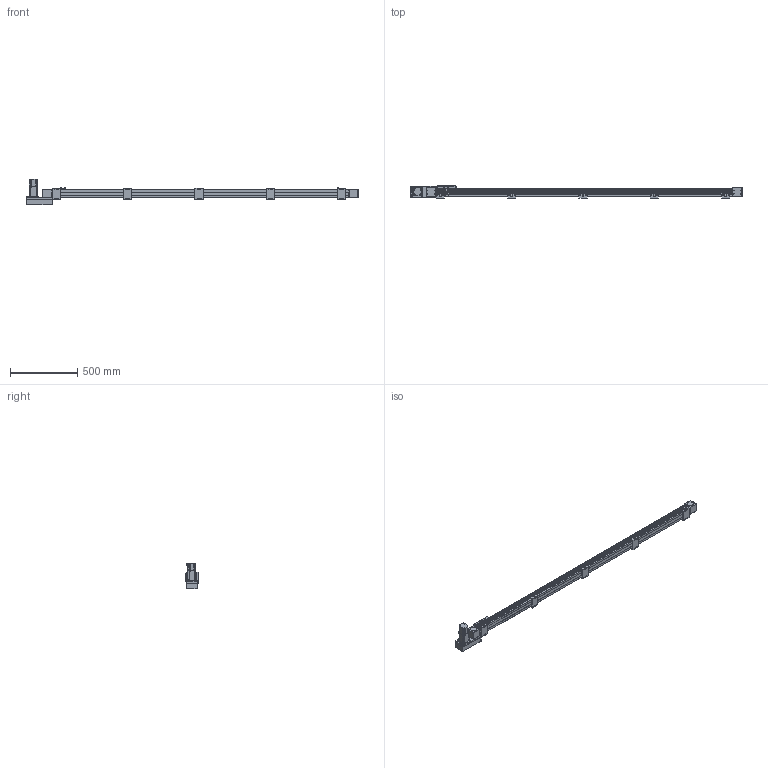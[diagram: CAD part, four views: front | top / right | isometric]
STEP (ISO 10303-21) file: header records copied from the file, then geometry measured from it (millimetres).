
FILE_DESCRIPTION(/* description */ ('STEP AP214'),/* implementation_level */ '2;1');
FILE_NAME(/* name */ 'SK60-P13-S2050-L-T40-C1-N(0)',/* time_stamp */ '2023-04-06T04:11:41+02:00',/* author */ ('License CC BY-ND 4.0'),/* organization */ ('CADENAS'),/* preprocessor_version */ 'ST-DEVELOPER v19.3',/* originating_system */ 'PARTsolutions',/* authorisation */ ' ');
FILE_SCHEMA (('AUTOMOTIVE_DESIGN {1 0 10303 214 3 1 1}'));
Length unit declared in the file: millimetre
Products named in the file (10): SK60-P13-S2050-L-T40-C1-N(0); PSC140-sensor; SK60-S450_seat; SK60-S450-BL-C1_slider; SK60_body3; SK60_body6; SK60-BL_body2; T40-p1; SK60-L_fb; SK60-S2050-L-C1_body
Assembly tree (19 placements, depth 2):
  SK60-P13-S2050-L-T40-C1-N(0)
    PSC140-sensor  x3
    SK60-S450_seat  x5
    SK60-S450-BL-C1_slider
    SK60_body3  x3
    SK60_body6  x2
    SK60-BL_body2  x2
    T40-p1
    SK60-L_fb
    SK60-S2050-L-C1_body
Bounding box: 2470.5 x 90 x 189.7 mm (x, y, z)
Volume: 9229431 mm3; surface area: 1108099.1 mm2
Topology: 19 solids, 19 shells, 942 faces, 2342 edges, 1541 vertices
Faces by surface type: plane 596, cylinder 310, cone 34, torus 2
Full cylindrical faces by diameter (mm): 2.8 x3, 3.3 x4, 4 x2, 4.5 x30, 4.6 x3, 4.917 x28, 5 x6, 5.478 x4, 5.5 x31, 6.5 x10, 7 x2, 8 x4, 8.5 x4, 9.988 x4, 10 x20, 14 x1, 47 x3, 50 x2
Entity records: 18679 total; most frequent: DIRECTION 3190, CARTESIAN_POINT 3153, ORIENTED_EDGE 2940, EDGE_CURVE 1470, AXIS2_PLACEMENT_3D 1071, LINE 1048, VECTOR 1048, VERTEX_POINT 1034
